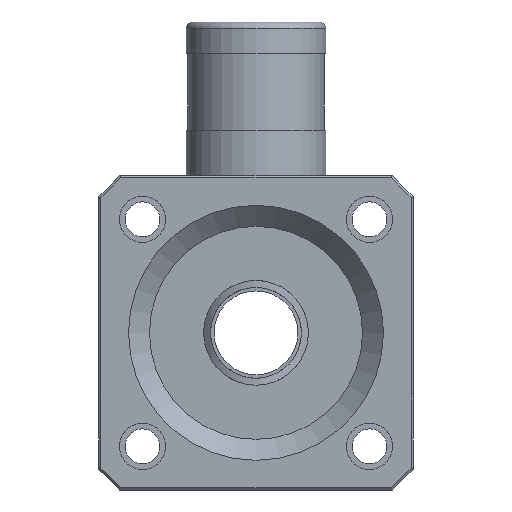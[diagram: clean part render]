
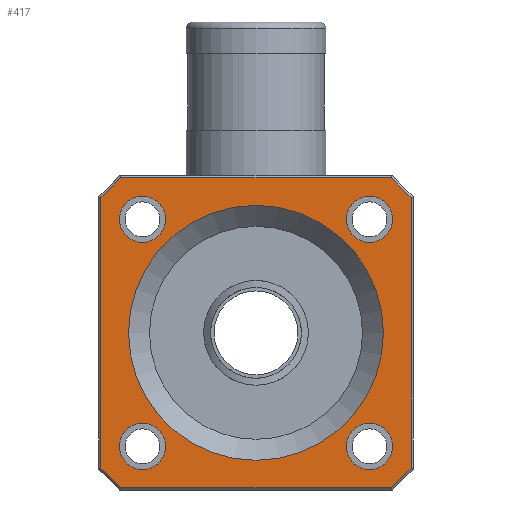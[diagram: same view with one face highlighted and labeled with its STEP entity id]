
A CAD part, front view. The second image highlights one B-rep face of the part: STEP entity #417.
In plain terms, the highlighted planar face has unit normal (0, -1, 0) as drawn and (0, 0, -1) by its records, which use the part's own axes.
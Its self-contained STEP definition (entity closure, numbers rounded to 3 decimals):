
#417=ADVANCED_FACE('',(#735,#736,#737,#738,#739,#740),#741,.T.);
#735=FACE_OUTER_BOUND('',#1138,.T.);
#736=FACE_BOUND('',#1139,.T.);
#737=FACE_BOUND('',#1140,.T.);
#738=FACE_BOUND('',#1141,.T.);
#739=FACE_BOUND('',#1142,.T.);
#740=FACE_BOUND('',#1143,.T.);
#741=PLANE('',#1144);
#1138=EDGE_LOOP('',(#1685,#1686,#1687,#1688,#1689,#1690,#1691,#1692));
#1139=EDGE_LOOP('',(#1693));
#1140=EDGE_LOOP('',(#1694));
#1141=EDGE_LOOP('',(#1695));
#1142=EDGE_LOOP('',(#1696));
#1143=EDGE_LOOP('',(#1697));
#1144=AXIS2_PLACEMENT_3D('',#1698,#1699,#1700);
#1685=ORIENTED_EDGE('',*,*,#2372,.T.);
#1686=ORIENTED_EDGE('',*,*,#2373,.T.);
#1687=ORIENTED_EDGE('',*,*,#2374,.T.);
#1688=ORIENTED_EDGE('',*,*,#2375,.T.);
#1689=ORIENTED_EDGE('',*,*,#2376,.T.);
#1690=ORIENTED_EDGE('',*,*,#2377,.T.);
#1691=ORIENTED_EDGE('',*,*,#2378,.T.);
#1692=ORIENTED_EDGE('',*,*,#2379,.T.);
#1693=ORIENTED_EDGE('',*,*,#2318,.T.);
#1694=ORIENTED_EDGE('',*,*,#2277,.F.);
#1695=ORIENTED_EDGE('',*,*,#2271,.F.);
#1696=ORIENTED_EDGE('',*,*,#2274,.F.);
#1697=ORIENTED_EDGE('',*,*,#2342,.F.);
#1698=CARTESIAN_POINT('',(0.0,0.0,-8.0));
#1699=DIRECTION('',(0.0,0.0,-1.0));
#1700=DIRECTION('',(0.0,-1.0,0.0));
#2271=EDGE_CURVE('',#2612,#2612,#2613,.T.);
#2274=EDGE_CURVE('',#2617,#2617,#2618,.T.);
#2277=EDGE_CURVE('',#2622,#2622,#2623,.T.);
#2318=EDGE_CURVE('',#2692,#2692,#2693,.T.);
#2342=EDGE_CURVE('',#2728,#2728,#2729,.T.);
#2372=EDGE_CURVE('',#2777,#2778,#2779,.T.);
#2373=EDGE_CURVE('',#2778,#2780,#2781,.T.);
#2374=EDGE_CURVE('',#2780,#2782,#2783,.T.);
#2375=EDGE_CURVE('',#2782,#2784,#2785,.T.);
#2376=EDGE_CURVE('',#2784,#2786,#2787,.T.);
#2377=EDGE_CURVE('',#2786,#2788,#2789,.T.);
#2378=EDGE_CURVE('',#2788,#2790,#2791,.T.);
#2379=EDGE_CURVE('',#2790,#2777,#2792,.T.);
#2612=VERTEX_POINT('',#3181);
#2613=CIRCLE('',#3182,3.3);
#2617=VERTEX_POINT('',#3186);
#2618=CIRCLE('',#3187,3.3);
#2622=VERTEX_POINT('',#3191);
#2623=CIRCLE('',#3192,3.3);
#2692=VERTEX_POINT('',#3452);
#2693=CIRCLE('',#3453,18.25);
#2728=VERTEX_POINT('',#3500);
#2729=CIRCLE('',#3501,3.3);
#2777=VERTEX_POINT('',#3569);
#2778=VERTEX_POINT('',#3570);
#2779=LINE('',#3571,#3572);
#2780=VERTEX_POINT('',#3573);
#2781=LINE('',#3574,#3575);
#2782=VERTEX_POINT('',#3576);
#2783=LINE('',#3577,#3578);
#2784=VERTEX_POINT('',#3579);
#2785=LINE('',#3580,#3581);
#2786=VERTEX_POINT('',#3582);
#2787=LINE('',#3583,#3584);
#2788=VERTEX_POINT('',#3585);
#2789=LINE('',#3586,#3587);
#2790=VERTEX_POINT('',#3588);
#2791=LINE('',#3589,#3590);
#2792=LINE('',#3591,#3592);
#3181=CARTESIAN_POINT('',(-19.55,16.25,-8.0));
#3182=AXIS2_PLACEMENT_3D('',#4047,#4048,#4049);
#3186=CARTESIAN_POINT('',(12.95,16.25,-8.0));
#3187=AXIS2_PLACEMENT_3D('',#4053,#4054,#4055);
#3191=CARTESIAN_POINT('',(-19.55,-16.25,-8.0));
#3192=AXIS2_PLACEMENT_3D('',#4059,#4060,#4061);
#3452=CARTESIAN_POINT('',(-18.25,0.,-8.0));
#3453=AXIS2_PLACEMENT_3D('',#4117,#4118,#4119);
#3500=CARTESIAN_POINT('',(12.95,-16.25,-8.0));
#3501=AXIS2_PLACEMENT_3D('',#4141,#4142,#4143);
#3569=CARTESIAN_POINT('',(-19.376,22.2,-8.0));
#3570=CARTESIAN_POINT('',(19.376,22.2,-8.0));
#3571=CARTESIAN_POINT('',(0.,22.2,-8.0));
#3572=VECTOR('',#4170,1.0);
#3573=CARTESIAN_POINT('',(22.2,19.376,-8.0));
#3574=CARTESIAN_POINT('',(22.288,19.288,-8.0));
#3575=VECTOR('',#4171,1.0);
#3576=CARTESIAN_POINT('',(22.2,-19.376,-8.0));
#3577=CARTESIAN_POINT('',(22.2,0.,-8.0));
#3578=VECTOR('',#4172,1.0);
#3579=CARTESIAN_POINT('',(19.376,-22.2,-8.0));
#3580=CARTESIAN_POINT('',(19.288,-22.288,-8.0));
#3581=VECTOR('',#4173,1.0);
#3582=CARTESIAN_POINT('',(-19.376,-22.2,-8.0));
#3583=CARTESIAN_POINT('',(0.0,-22.2,-8.0));
#3584=VECTOR('',#4174,1.0);
#3585=CARTESIAN_POINT('',(-22.2,-19.376,-8.0));
#3586=CARTESIAN_POINT('',(-22.288,-19.288,-8.0));
#3587=VECTOR('',#4175,1.0);
#3588=CARTESIAN_POINT('',(-22.2,19.376,-8.0));
#3589=CARTESIAN_POINT('',(-22.2,0.,-8.0));
#3590=VECTOR('',#4176,1.0);
#3591=CARTESIAN_POINT('',(-19.288,22.288,-8.0));
#3592=VECTOR('',#4177,1.0);
#4047=CARTESIAN_POINT('',(-16.25,16.25,-8.0));
#4048=DIRECTION('',(0.0,0.0,-1.0));
#4049=DIRECTION('',(-1.0,0.0,0.0));
#4053=CARTESIAN_POINT('',(16.25,16.25,-8.0));
#4054=DIRECTION('',(0.0,0.0,-1.0));
#4055=DIRECTION('',(-1.0,0.0,0.0));
#4059=CARTESIAN_POINT('',(-16.25,-16.25,-8.0));
#4060=DIRECTION('',(0.0,0.0,-1.0));
#4061=DIRECTION('',(-1.0,0.0,0.0));
#4117=CARTESIAN_POINT('',(0.0,0.0,-8.0));
#4118=DIRECTION('',(0.0,0.0,1.0));
#4119=DIRECTION('',(-1.0,0.0,0.0));
#4141=CARTESIAN_POINT('',(16.25,-16.25,-8.0));
#4142=DIRECTION('',(0.0,0.0,-1.0));
#4143=DIRECTION('',(-1.0,0.0,0.0));
#4170=DIRECTION('',(1.0,0.,0.0));
#4171=DIRECTION('',(0.707,-0.707,0.0));
#4172=DIRECTION('',(0.,-1.0,0.0));
#4173=DIRECTION('',(-0.707,-0.707,0.0));
#4174=DIRECTION('',(-1.0,0.0,0.0));
#4175=DIRECTION('',(-0.707,0.707,0.0));
#4176=DIRECTION('',(0.,1.0,0.0));
#4177=DIRECTION('',(0.707,0.707,0.0));
